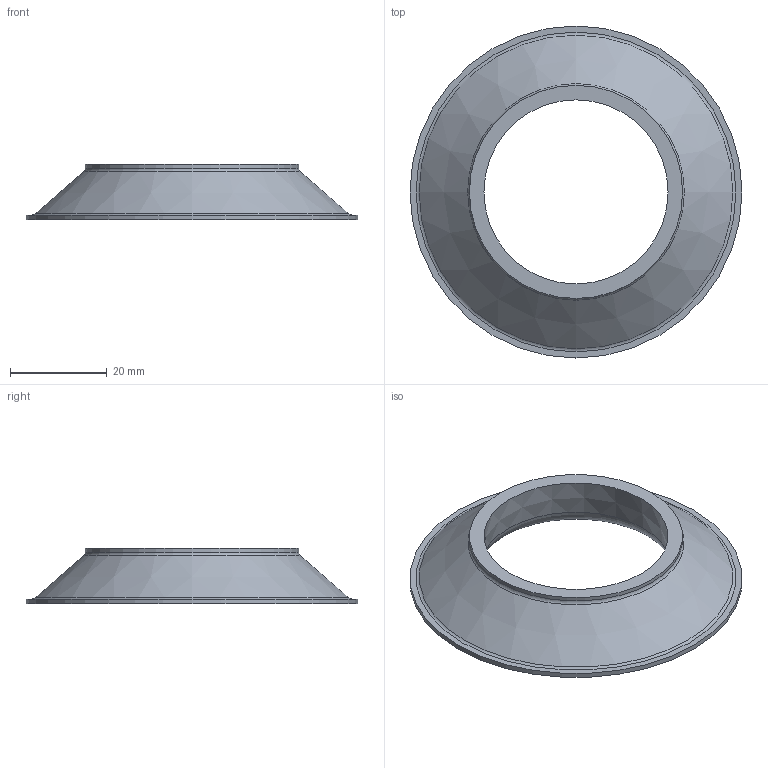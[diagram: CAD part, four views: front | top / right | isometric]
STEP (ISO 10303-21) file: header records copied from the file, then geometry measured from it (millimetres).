
FILE_DESCRIPTION( ('This file contains a STEP AP42 implementation' ,'as created by ZW3D STEP Interface translator.') ,'2;1' );
FILE_NAME( 'KM-38.stp' ,'26 518.1339 0', (''), ('ZWCAD Software Co.'), 'Version 1.0', 'ZW3D to STEP translator', '' );
FILE_SCHEMA(('AP242_MANAGED_MODEL_BASED_3D_ENGINEERING_MIM_LF { 1 0 10303 442 1 1 4 }'));
Length unit declared in the file: millimetre
Products named in the file (1): 0
Bounding box: 68.5 x 68.5 x 11.5 mm (x, y, z)
Volume: 13438.3 mm3; surface area: 7194.1 mm2
Topology: 1 solids, 1 shells, 10 faces, 17 edges, 10 vertices
Faces by surface type: plane 3, torus 3, cylinder 2, cone 2
Full cylindrical faces by diameter (mm): 44 x1, 68.5 x1
Entity records: 276 total; most frequent: DIRECTION 52, CARTESIAN_POINT 38, ORIENTED_EDGE 34, AXIS2_PLACEMENT_3D 24, EDGE_CURVE 17, CIRCLE 13, EDGE_LOOP 13, VERTEX_POINT 10
